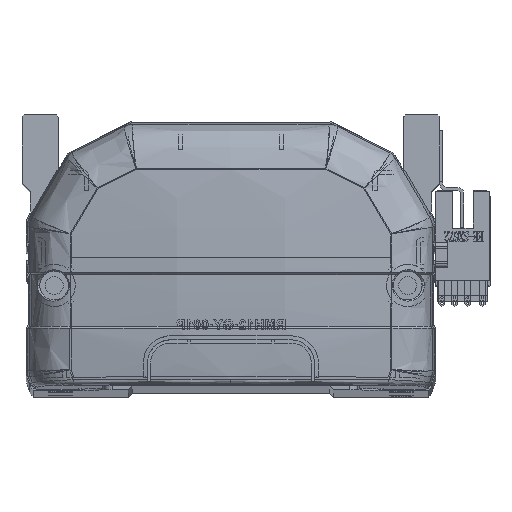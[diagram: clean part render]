
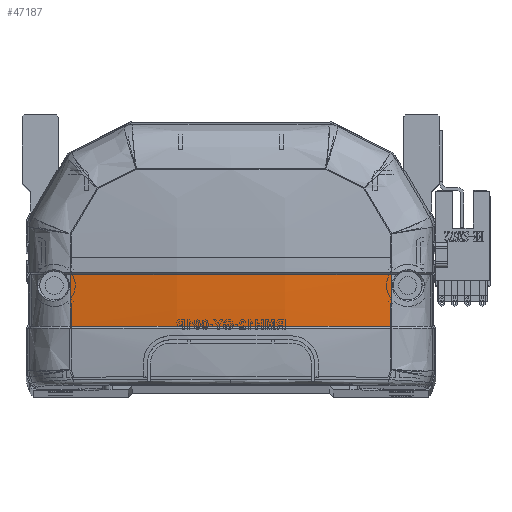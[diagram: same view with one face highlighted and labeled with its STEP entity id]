
A CAD part, top view. The second image highlights one B-rep face of the part: STEP entity #47187.
In plain terms, the highlighted free-form (B-spline) face has degree [3, 3] with [4, 4] control points.
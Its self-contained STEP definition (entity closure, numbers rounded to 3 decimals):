
#393 = CARTESIAN_POINT ( 'NONE',  ( -13.598, 28.769, -10.535 ) ) ;
#574 = CARTESIAN_POINT ( 'NONE',  ( -39.963, 28.706, -6.372 ) ) ;
#610 = CARTESIAN_POINT ( 'NONE',  ( 13.598, 19.918, -10.302 ) ) ;
#993 = CARTESIAN_POINT ( 'NONE',  ( -13.373, 28.707, -9.468 ) ) ;
#3289 = CARTESIAN_POINT ( 'NONE',  ( -39.973, 20.118, -6.142 ) ) ;
#4169 = B_SPLINE_CURVE_WITH_KNOTS ( 'NONE', 3,
 ( #41355, #11655, #3289, #46114 ),
 .UNSPECIFIED., .F., .F.,
 ( 4, 4 ),
 ( 0., 1. ),
 .UNSPECIFIED. ) ;
#5001 = CARTESIAN_POINT ( 'NONE',  ( 40.461, 15.757, -5.8 ) ) ;
#5206 = CARTESIAN_POINT ( 'NONE',  ( -13.598, 19.918, -10.302 ) ) ;
#7920 = VERTEX_POINT ( 'NONE', #26346 ) ;
#9766 = CARTESIAN_POINT ( 'NONE',  ( -36.679, 15.83, -6.395 ) ) ;
#10024 = CARTESIAN_POINT ( 'NONE',  ( -40.461, 24.47, -6.231 ) ) ;
#10728 = CARTESIAN_POINT ( 'NONE',  ( 39.985, 15.83, -5.879 ) ) ;
#11655 = CARTESIAN_POINT ( 'NONE',  ( -39.966, 24.412, -6.306 ) ) ;
#14383 = CARTESIAN_POINT ( 'NONE',  ( 40.461, 28.832, -6.296 ) ) ;
#15388 = CARTESIAN_POINT ( 'NONE',  ( 39.963, 28.706, -6.372 ) ) ;
#15815 = ORIENTED_EDGE ( 'NONE', *, *, #43492, .T. ) ;
#17253 = CARTESIAN_POINT ( 'NONE',  ( 39.963, 28.706, -6.372 ) ) ;
#19376 = CARTESIAN_POINT ( 'NONE',  ( 13.598, 28.769, -10.535 ) ) ;
#19918 = ORIENTED_EDGE ( 'NONE', *, *, #27799, .F. ) ;
#19988 = CARTESIAN_POINT ( 'NONE',  ( -13.598, 24.342, -10.47 ) ) ;
#20484 = B_SPLINE_CURVE_WITH_KNOTS ( 'NONE', 3,
 ( #50952, #60526, #42358, #47792, #37818, #57382, #56577, #28052, #9766, #51801 ),
 .UNSPECIFIED., .F., .F.,
 ( 4, 2, 2, 2, 4 ),
 ( 0., 0.04, 0.06, 0.07, 0.08 ),
 .UNSPECIFIED. ) ;
#20538 = VERTEX_POINT ( 'NONE', #58723 ) ;
#22904 = B_SPLINE_CURVE_WITH_KNOTS ( 'NONE', 3,
 ( #41337, #40924, #45698, #17253 ),
 .UNSPECIFIED., .F., .F.,
 ( 4, 4 ),
 ( 0., 1. ),
 .UNSPECIFIED. ) ;
#24348 = CARTESIAN_POINT ( 'NONE',  ( 40.461, 20.111, -6.066 ) ) ;
#26047 = VERTEX_POINT ( 'NONE', #10728 ) ;
#26346 = CARTESIAN_POINT ( 'NONE',  ( -39.963, 28.706, -6.372 ) ) ;
#27799 = EDGE_CURVE ( 'NONE', #7920, #57925, #53363, .T. ) ;
#28052 = CARTESIAN_POINT ( 'NONE',  ( -33.365, 15.83, -6.848 ) ) ;
#33697 = CARTESIAN_POINT ( 'NONE',  ( -40.461, 20.111, -6.066 ) ) ;
#37431 = ORIENTED_EDGE ( 'NONE', *, *, #42848, .T. ) ;
#37818 = CARTESIAN_POINT ( 'NONE',  ( -13.384, 15.83, -8.724 ) ) ;
#38154 = EDGE_CURVE ( 'NONE', #26047, #20538, #20484, .T. ) ;
#38652 = CARTESIAN_POINT ( 'NONE',  ( 26.749, 28.706, -8.432 ) ) ;
#40546 = EDGE_LOOP ( 'NONE', ( #37431, #19918, #15815, #55657 ) ) ;
#40924 = CARTESIAN_POINT ( 'NONE',  ( 39.973, 20.12, -6.142 ) ) ;
#41337 = CARTESIAN_POINT ( 'NONE',  ( 39.985, 15.83, -5.879 ) ) ;
#41355 = CARTESIAN_POINT ( 'NONE',  ( -39.963, 28.706, -6.372 ) ) ;
#42358 = CARTESIAN_POINT ( 'NONE',  ( 13.38, 15.83, -8.984 ) ) ;
#42822 = CARTESIAN_POINT ( 'NONE',  ( 40.461, 24.47, -6.231 ) ) ;
#42848 = EDGE_CURVE ( 'NONE', #26047, #57925, #22904, .T. ) ;
#43023 = CARTESIAN_POINT ( 'NONE',  ( 13.598, 24.342, -10.47 ) ) ;
#43492 = EDGE_CURVE ( 'NONE', #7920, #20538, #4169, .T. ) ;
#43822 = CARTESIAN_POINT ( 'NONE',  ( 13.375, 28.707, -9.468 ) ) ;
#45698 = CARTESIAN_POINT ( 'NONE',  ( 39.966, 24.413, -6.306 ) ) ;
#46114 = CARTESIAN_POINT ( 'NONE',  ( -39.985, 15.83, -5.879 ) ) ;
#47187 = ADVANCED_FACE ( 'NONE', ( #52329 ), #55220, .F. ) ;
#47792 = CARTESIAN_POINT ( 'NONE',  ( -6.692, 15.83, -8.984 ) ) ;
#47836 = CARTESIAN_POINT ( 'NONE',  ( 13.598, 15.499, -10.032 ) ) ;
#48228 = CARTESIAN_POINT ( 'NONE',  ( -26.748, 28.706, -8.432 ) ) ;
#50952 = CARTESIAN_POINT ( 'NONE',  ( 39.985, 15.83, -5.879 ) ) ;
#51801 = CARTESIAN_POINT ( 'NONE',  ( -39.985, 15.83, -5.879 ) ) ;
#52329 = FACE_OUTER_BOUND ( 'NONE', #40546, .T. ) ;
#52666 = CARTESIAN_POINT ( 'NONE',  ( -13.598, 15.499, -10.032 ) ) ;
#53363 = B_SPLINE_CURVE_WITH_KNOTS ( 'NONE', 3,
 ( #574, #48228, #993, #43822, #38652, #15388 ),
 .UNSPECIFIED., .F., .F.,
 ( 4, 2, 4 ),
 ( 0., 0.5, 1. ),
 .UNSPECIFIED. ) ;
#55220 =( BOUNDED_SURFACE ( )  B_SPLINE_SURFACE ( 3, 3, ( 
 ( #5001, #24348, #42822, #14383 ),
 ( #47836, #610, #43023, #19376 ),
 ( #52666, #5206, #19988, #393 ),
 ( #57643, #33697, #10024, #58061 ) ),
 .UNSPECIFIED., .F., .F., .T. ) 
 B_SPLINE_SURFACE_WITH_KNOTS ( ( 4, 4 ),
 ( 4, 4 ),
 ( 0., 1. ),
 ( 0., 1. ),
 .UNSPECIFIED. ) 
 GEOMETRIC_REPRESENTATION_ITEM ( )  RATIONAL_B_SPLINE_SURFACE ( (
 ( 1., 1., 1., 1.),
 ( 0.992, 0.992, 0.992, 0.992),
 ( 0.992, 0.992, 0.992, 0.992),
 ( 1., 1., 1., 1.) ) ) 
 REPRESENTATION_ITEM ( '' )  SURFACE ( )  );
#55657 = ORIENTED_EDGE ( 'NONE', *, *, #38154, .F. ) ;
#56577 = CARTESIAN_POINT ( 'NONE',  ( -26.721, 15.83, -7.624 ) ) ;
#57382 = CARTESIAN_POINT ( 'NONE',  ( -23.389, 15.83, -7.947 ) ) ;
#57643 = CARTESIAN_POINT ( 'NONE',  ( -40.461, 15.757, -5.8 ) ) ;
#57925 = VERTEX_POINT ( 'NONE', #61715 ) ;
#58061 = CARTESIAN_POINT ( 'NONE',  ( -40.461, 28.832, -6.296 ) ) ;
#58723 = CARTESIAN_POINT ( 'NONE',  ( -39.985, 15.83, -5.879 ) ) ;
#60526 = CARTESIAN_POINT ( 'NONE',  ( 26.761, 15.83, -7.945 ) ) ;
#61715 = CARTESIAN_POINT ( 'NONE',  ( 39.963, 28.706, -6.372 ) ) ;
